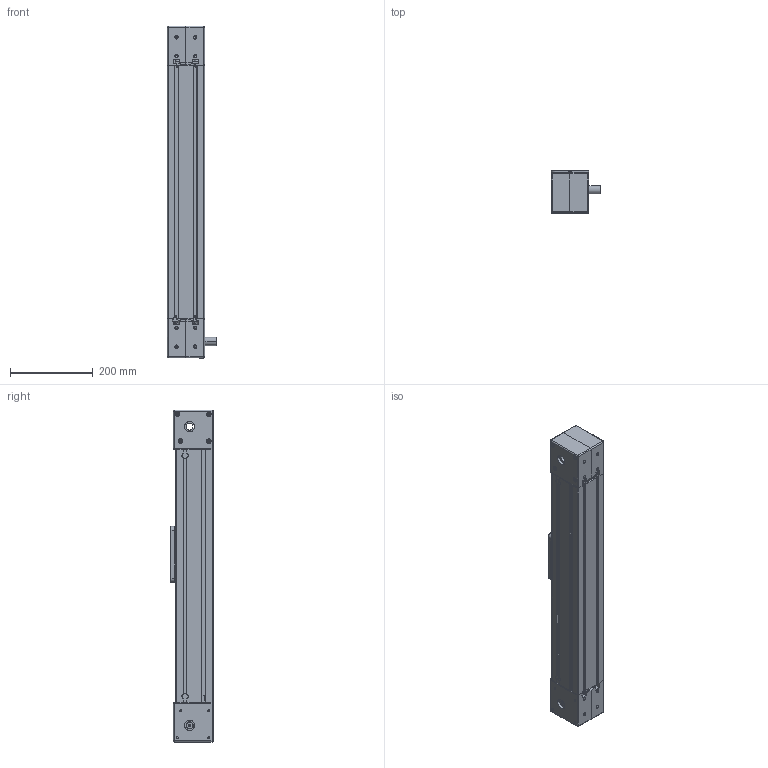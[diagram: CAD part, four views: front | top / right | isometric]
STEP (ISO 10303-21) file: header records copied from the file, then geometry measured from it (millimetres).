
FILE_DESCRIPTION (( 'STEP AP214' ), '1' );
FILE_NAME ('1.9015 Lineaariyksikkö GL_800mm.STEP', '2026-03-31T08:26:51', ( '' ), ( '' ), 'SwSTEP 2.0', 'SolidWorks 2025', '' );
FILE_SCHEMA (( 'AUTOMOTIVE_DESIGN' ));
Length unit declared in the file: millimetre
Products named in the file (16): Yläkelkka_L00018; Johde; Hihna 25; Hihnapala_L00016; 2.0002HGR20R; Runko; 1.8012 Hammashihnan vetopää GL; kelkka_L00017; Kelkka; 2.1017 HGH20CA; 1.9015 Lineaariyksikkö GL_800mm; 1.3008 Pulttikiinnike 15 C; 1.3003 Pikakiinnike 45; 1.8050 Akseli GL 20_17 L111.4 kiila 6x50; 1.0061 90x90 GL profiili_Default<As Machined>; 1.2054 Uppokantaruuvi M8x20
Assembly tree (25 placements, depth 5):
  1.9015 Lineaariyksikkö GL_800mm
    1.3003 Pikakiinnike 45  x4
    Runko
      1.0061 90x90 GL profiili_Default<As Machined>
      Johde
        2.0002HGR20R
        2.1017 HGH20CA  x2
        Kelkka
          Yläkelkka_L00018
          kelkka_L00017
          Hihnapala_L00016  x2
        1.2054 Uppokantaruuvi M8x20  x2
      1.3008 Pulttikiinnike 15 C  x4
    Hihna 25
    1.8050 Akseli GL 20_17 L111.4 kiila 6x50
    1.8012 Hammashihnan vetopää GL  x2
Bounding box: 119.62 x 102.55 x 800 mm (x, y, z)
Volume: 3023366.7 mm3; surface area: 1328018.7 mm2
Topology: 48 solids, 50 shells, 2637 faces, 6717 edges, 4233 vertices
Faces by surface type: plane 1244, cylinder 899, cone 266, bspline 164, torus 52, sphere 12
Entity records: 64838 total; most frequent: CARTESIAN_POINT 12883, DIRECTION 8132, ORIENTED_EDGE 7844, EDGE_CURVE 3932, AXIS2_PLACEMENT_3D 2879, VERTEX_POINT 2522, LINE 2374, VECTOR 2374
